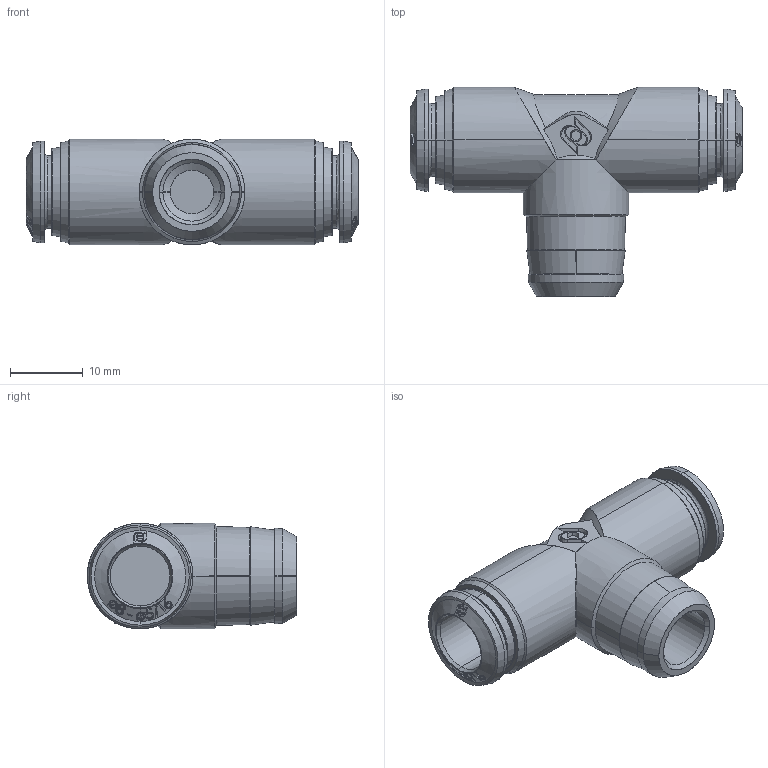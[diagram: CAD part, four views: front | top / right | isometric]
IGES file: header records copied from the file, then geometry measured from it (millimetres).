
Start section: SolidWorks IGES file using analytic representation for surfaces
Global section: file name: K:\Disegni Esecutivi\Serie 50000\ASSIEMI\50200\ASSIEMI_PIENI_50200\5020000005.IGS; native system: SolidWorks 2007; preprocessor: SolidWorks 2007; author: cad02; date: 071011.103416; units: millimetre
Bounding box: 45.6 x 28.75 x 14.5 mm (x, y, z)
Surface area: 4696.3 mm2 (no closed solid volume)
Topology: 0 solids, 0 shells, 443 faces, 5183 edges, 5177 vertices
Faces by surface type: bspline 284, revolution 159
